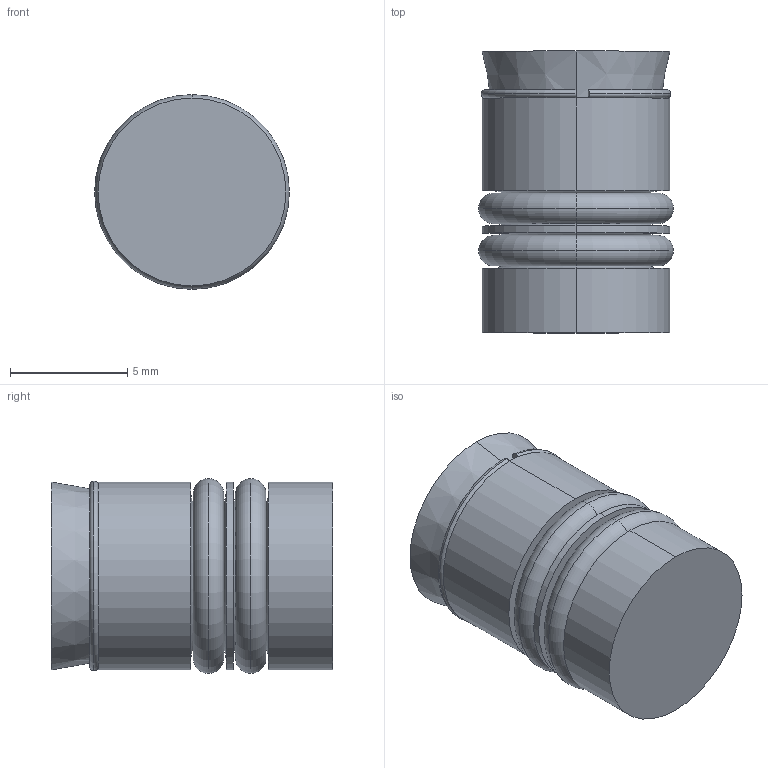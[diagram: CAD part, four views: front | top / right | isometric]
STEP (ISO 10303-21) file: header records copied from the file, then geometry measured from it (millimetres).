
FILE_DESCRIPTION (( 'STEP AP203' ), '1' );
FILE_NAME ('TCR2_8.STEP', '2023-04-24T12:06:34', ( '' ), ( '' ), 'SwSTEP 2.0', 'SolidWorks 2022', '' );
FILE_SCHEMA (( 'CONFIG_CONTROL_DESIGN' ));
Length unit declared in the file: millimetre
Products named in the file (1): TCR2_8
Bounding box: 8.3 x 12 x 8.3 mm (x, y, z)
Volume: 584.7 mm3; surface area: 676.1 mm2
Topology: 4 solids, 4 shells, 35 faces, 66 edges, 40 vertices
Faces by surface type: torus 18, plane 9, cylinder 6, cone 2
Entity records: 981 total; most frequent: DIRECTION 196, CARTESIAN_POINT 142, ORIENTED_EDGE 132, AXIS2_PLACEMENT_3D 94, EDGE_CURVE 66, CIRCLE 58, VERTEX_POINT 40, EDGE_LOOP 40
